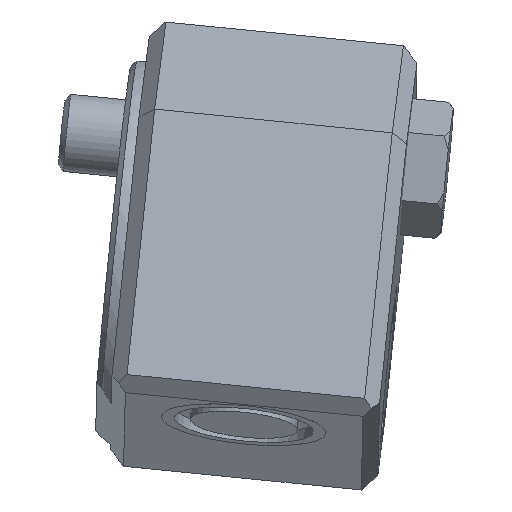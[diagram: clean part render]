
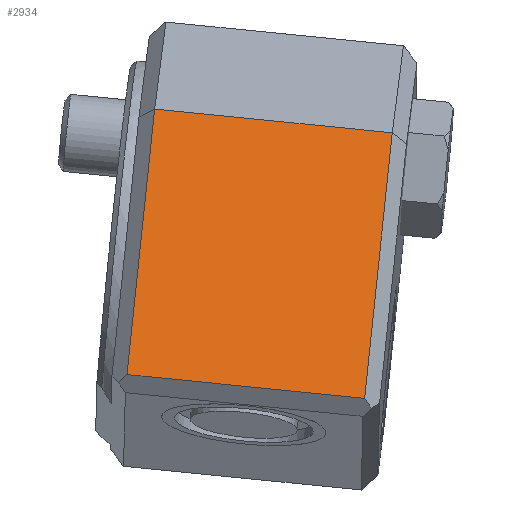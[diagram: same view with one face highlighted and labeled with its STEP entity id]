
A CAD part, top view. The second image highlights one B-rep face of the part: STEP entity #2934.
In plain terms, the highlighted planar face has unit normal (0.006, 0.23, 0.973).
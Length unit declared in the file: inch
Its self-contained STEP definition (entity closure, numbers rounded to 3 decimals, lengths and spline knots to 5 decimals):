
#201=LINE('',#4495,#365);
#206=LINE('',#4505,#370);
#208=LINE('',#4509,#372);
#209=LINE('',#4510,#373);
#365=VECTOR('',#3621,0.3937);
#370=VECTOR('',#3632,0.3937);
#372=VECTOR('',#3636,0.3937);
#373=VECTOR('',#3637,0.3937);
#562=FACE_OUTER_BOUND('',#734,.T.);
#734=EDGE_LOOP('',(#1956,#1957,#1958,#1959));
#1145=VERTEX_POINT('',#4492);
#1146=VERTEX_POINT('',#4494);
#1148=VERTEX_POINT('',#4504);
#1149=VERTEX_POINT('',#4508);
#1462=EDGE_CURVE('',#1145,#1146,#201,.T.);
#1467=EDGE_CURVE('',#1146,#1148,#206,.T.);
#1469=EDGE_CURVE('',#1149,#1145,#208,.T.);
#1470=EDGE_CURVE('',#1148,#1149,#209,.T.);
#1956=ORIENTED_EDGE('',*,*,#1462,.F.);
#1957=ORIENTED_EDGE('',*,*,#1469,.F.);
#1958=ORIENTED_EDGE('',*,*,#1470,.F.);
#1959=ORIENTED_EDGE('',*,*,#1467,.F.);
#2663=PLANE('',#3167);
#2934=ADVANCED_FACE('',(#562),#2663,.T.);
#3167=AXIS2_PLACEMENT_3D('',#4507,#3634,#3635);
#3621=DIRECTION('',(0.101,0.968,-0.23));
#3632=DIRECTION('',(0.995,-0.099,0.018));
#3634=DIRECTION('center_axis',(0.006,0.23,0.973));
#3635=DIRECTION('ref_axis',(-0.101,-0.968,0.23));
#3636=DIRECTION('',(-0.995,0.099,-0.018));
#3637=DIRECTION('',(-0.101,-0.968,0.23));
#4492=CARTESIAN_POINT('',(-0.8848,-0.63837,1.21605));
#4494=CARTESIAN_POINT('',(-0.78368,0.3335,0.98553));
#4495=CARTESIAN_POINT('',(-0.79944,0.182,1.02146));
#4504=CARTESIAN_POINT('',(0.08588,0.24669,1.00099));
#4505=CARTESIAN_POINT('',(-0.83851,0.33898,0.98456));
#4507=CARTESIAN_POINT('Origin',(-0.83851,0.33898,0.98456));
#4508=CARTESIAN_POINT('',(-0.01525,-0.72518,1.2315));
#4509=CARTESIAN_POINT('',(-0.93964,-0.63289,1.21507));
#4510=CARTESIAN_POINT('',(0.07012,0.09519,1.03692));
